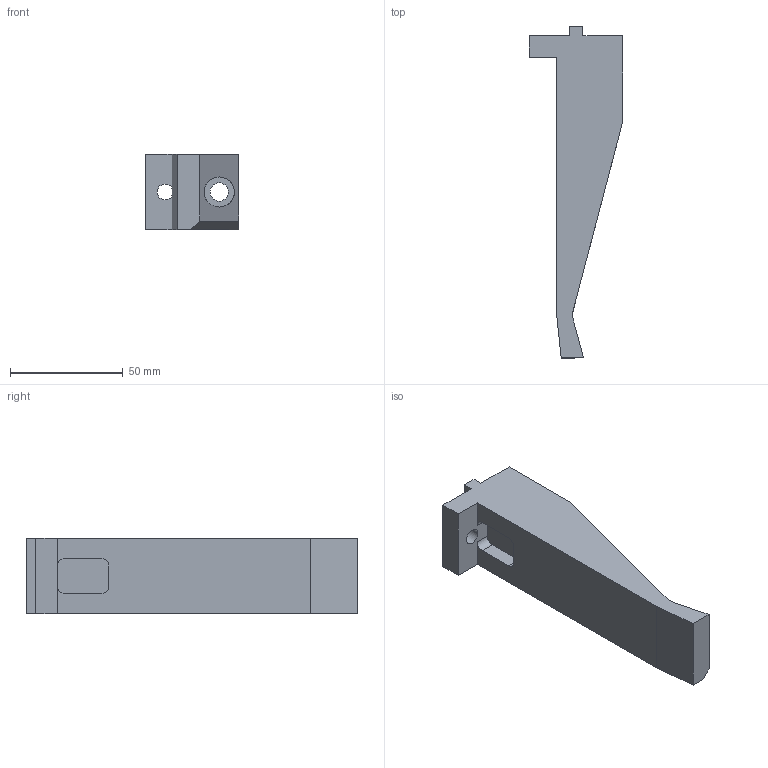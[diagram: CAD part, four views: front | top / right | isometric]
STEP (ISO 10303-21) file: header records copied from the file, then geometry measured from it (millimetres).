
FILE_DESCRIPTION (( 'STEP AP203' ), '1' );
FILE_NAME ('269-18-404.STEP', '2020-03-02T20:53:50', ( '' ), ( '' ), 'SwSTEP 2.0', 'SolidWorks 2017', '' );
FILE_SCHEMA (( 'CONFIG_CONTROL_DESIGN' ));
Length unit declared in the file: inch
Products named in the file (1): 269-18-404
Bounding box: 41.5 x 147.19 x 33.4 mm (x, y, z)
Volume: 87422.9 mm3; surface area: 20665.3 mm2
Topology: 1 solids, 1 shells, 34 faces, 91 edges, 60 vertices
Faces by surface type: plane 24, cylinder 10
Entity records: 1144 total; most frequent: CARTESIAN_POINT 192, ORIENTED_EDGE 182, DIRECTION 177, EDGE_CURVE 91, VECTOR 71, LINE 71, VERTEX_POINT 60, AXIS2_PLACEMENT_3D 53
